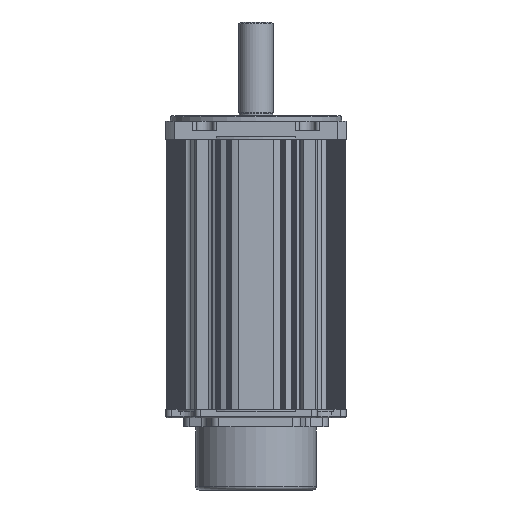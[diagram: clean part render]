
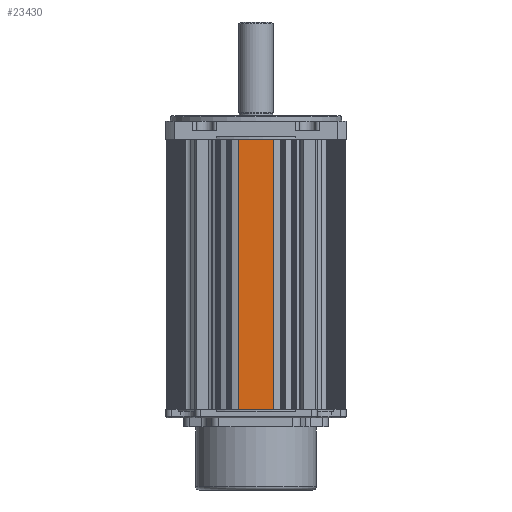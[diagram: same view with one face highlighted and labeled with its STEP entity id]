
A CAD part, front view. The second image highlights one B-rep face of the part: STEP entity #23430.
In plain terms, the highlighted planar face has unit normal (0, -1, 0).
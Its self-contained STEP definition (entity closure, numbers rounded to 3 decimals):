
#1462 = VERTEX_POINT ( 'NONE', #52201 ) ;
#4395 = DIRECTION ( 'NONE',  ( 0., 0., -1. ) ) ;
#5297 = EDGE_CURVE ( 'NONE', #12167, #30241, #16573, .T. ) ;
#5778 = EDGE_CURVE ( 'NONE', #1462, #20314, #27415, .T. ) ;
#6680 = DIRECTION ( 'NONE',  ( 0., 0., 1. ) ) ;
#7404 = VECTOR ( 'NONE', #25258, 1000. ) ;
#8954 = ORIENTED_EDGE ( 'NONE', *, *, #30094, .T. ) ;
#9371 = CARTESIAN_POINT ( 'NONE',  ( 9.5, -49.8, 0. ) ) ;
#10176 = CARTESIAN_POINT ( 'NONE',  ( -9.5, -49.8, 0. ) ) ;
#11325 = LINE ( 'NONE', #28125, #42032 ) ;
#12167 = VERTEX_POINT ( 'NONE', #47389 ) ;
#12704 = CARTESIAN_POINT ( 'NONE',  ( -9.5, -49.8, 150. ) ) ;
#15492 = CARTESIAN_POINT ( 'NONE',  ( 0., -49.8, 150. ) ) ;
#16264 = DIRECTION ( 'NONE',  ( 1., 0., 0. ) ) ;
#16304 = PLANE ( 'NONE',  #52097 ) ;
#16573 = LINE ( 'NONE', #12704, #24974 ) ;
#17334 = EDGE_LOOP ( 'NONE', ( #8954, #52894, #53324, #48575 ) ) ;
#20314 = VERTEX_POINT ( 'NONE', #9371 ) ;
#23430 = ADVANCED_FACE ( 'NONE', ( #37004 ), #16304, .F. ) ;
#24320 = DIRECTION ( 'NONE',  ( 0., 0., -1. ) ) ;
#24322 = DIRECTION ( 'NONE',  ( 0., 1., 0. ) ) ;
#24974 = VECTOR ( 'NONE', #24320, 1000. ) ;
#25258 = DIRECTION ( 'NONE',  ( 1., 0., 0. ) ) ;
#25860 = CARTESIAN_POINT ( 'NONE',  ( 9.5, -49.8, 150. ) ) ;
#27415 = LINE ( 'NONE', #25860, #54132 ) ;
#28125 = CARTESIAN_POINT ( 'NONE',  ( 0., -49.8, 0. ) ) ;
#28861 = CARTESIAN_POINT ( 'NONE',  ( 0., -49.8, 150. ) ) ;
#30094 = EDGE_CURVE ( 'NONE', #30241, #20314, #11325, .T. ) ;
#30241 = VERTEX_POINT ( 'NONE', #10176 ) ;
#37004 = FACE_OUTER_BOUND ( 'NONE', #17334, .T. ) ;
#38159 = EDGE_CURVE ( 'NONE', #12167, #1462, #46498, .T. ) ;
#42032 = VECTOR ( 'NONE', #16264, 1000. ) ;
#46498 = LINE ( 'NONE', #28861, #7404 ) ;
#47389 = CARTESIAN_POINT ( 'NONE',  ( -9.5, -49.8, 150. ) ) ;
#48575 = ORIENTED_EDGE ( 'NONE', *, *, #5297, .T. ) ;
#52097 = AXIS2_PLACEMENT_3D ( 'NONE', #15492, #24322, #6680 ) ;
#52201 = CARTESIAN_POINT ( 'NONE',  ( 9.5, -49.8, 150. ) ) ;
#52894 = ORIENTED_EDGE ( 'NONE', *, *, #5778, .F. ) ;
#53324 = ORIENTED_EDGE ( 'NONE', *, *, #38159, .F. ) ;
#54132 = VECTOR ( 'NONE', #4395, 1000. ) ;
